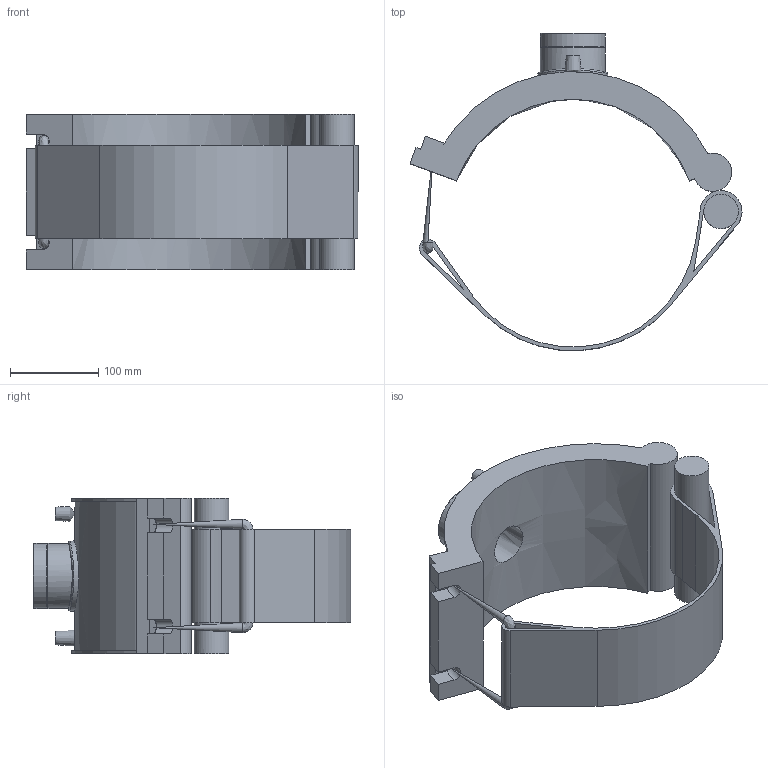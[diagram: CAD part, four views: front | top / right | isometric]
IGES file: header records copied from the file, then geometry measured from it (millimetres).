
Global section: file name: 5938D00310055.ipt; native system: Autodesk Inventor 2019; preprocessor: unknown; author: KIM; date: 20210830.101148; units: inch
Bounding box: 376.03 x 359.4 x 176.02 mm (x, y, z)
Volume: 2824553.3 mm3; surface area: 391868.3 mm2
Topology: 2 solids, 3 shells, 78 faces, 192 edges, 126 vertices
Faces by surface type: plane 42, cylinder 19, revolution 11, cone 5, bspline 1
Full cylindrical faces by diameter (mm): 4 x2, 11.224 x2, 39.068 x1, 72.653 x1, 73.653 x2, 79.318 x1
